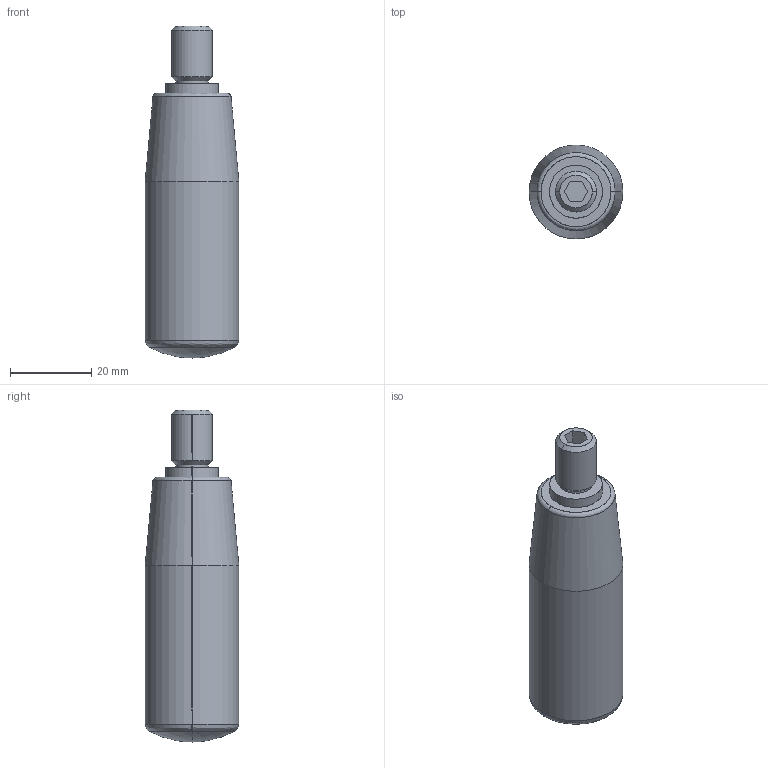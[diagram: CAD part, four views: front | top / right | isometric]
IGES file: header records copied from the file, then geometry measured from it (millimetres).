
Start section: SolidWorks IGES file using analytic representation for surfaces
Global section: file name: C:\HEMSIDA\cad\SLDPRT_2010\gn598\\gn598_65_m10.igs; native system: SolidWorks 2010; preprocessor: SolidWorks 2010; author: Administrator; date: 101001.152011; units: millimetre
Bounding box: 23 x 23 x 81.5 mm (x, y, z)
Surface area: 5669 mm2 (no closed solid volume)
Topology: 0 solids, 0 shells, 30 faces, 276 edges, 274 vertices
Faces by surface type: bspline 16, revolution 14
